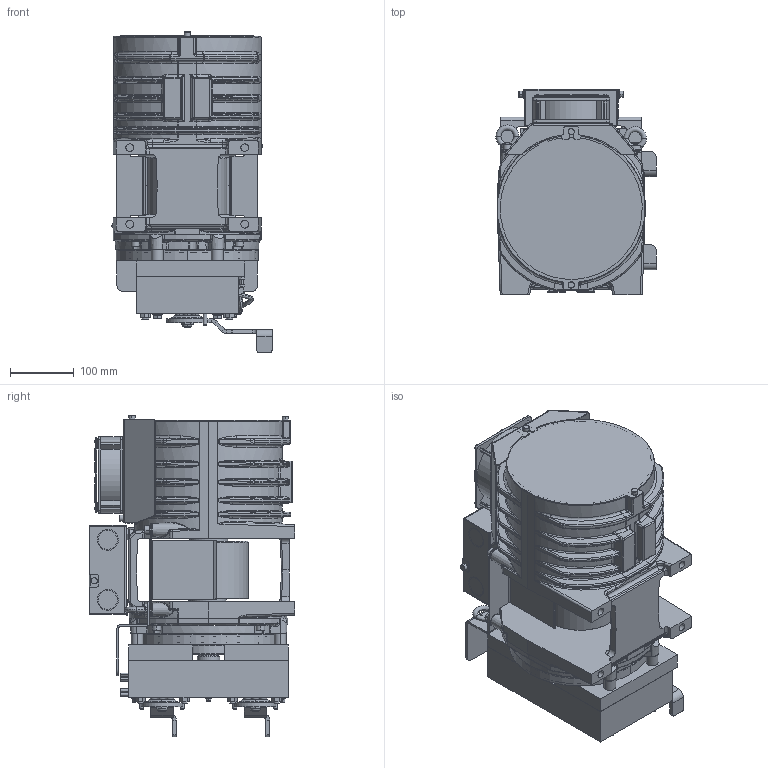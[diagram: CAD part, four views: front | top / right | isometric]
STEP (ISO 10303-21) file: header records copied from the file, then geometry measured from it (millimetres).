
FILE_DESCRIPTION((''),'2;1');
FILE_NAME('00363838_ASM','2020-06-05T',('furlanis'),('Sicor spa'),'CREO PARAMETRIC BY PTC INC, 2017170','CREO PARAMETRIC BY PTC INC, 2017170','');
FILE_SCHEMA(('CONFIG_CONTROL_DESIGN'));
Products named in the file (4): SGS4; _120_90; _120; 00363838_ASM
Assembly tree (4 placements, depth 2):
  00363838_ASM
    SGS4
    _120_90
    _120  x2
Bounding box: 251 x 322 x 503.02 mm (x, y, z)
Volume: 869486.3 mm3; surface area: 1586599.9 mm2
Topology: 3 solids, 289 shells, 3398 faces, 11770 edges, 8350 vertices
Faces by surface type: plane 1456, cylinder 832, bspline 540, torus 314, cone 212, sphere 44
Entity records: 188027 total; most frequent: CARTESIAN_POINT 95240, ORIENTED_EDGE 18387, DIRECTION 17572, EDGE_CURVE 11642, VERTEX_POINT 8302, VECTOR 6174, LINE 6174, AXIS2_PLACEMENT_3D 5699
